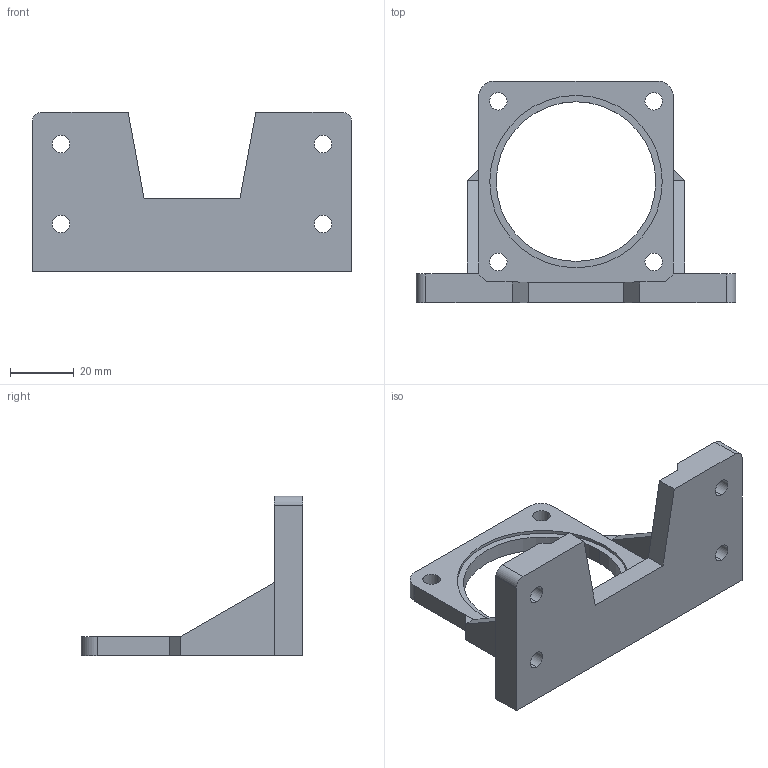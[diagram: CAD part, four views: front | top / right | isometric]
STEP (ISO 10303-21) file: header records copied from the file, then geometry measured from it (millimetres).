
FILE_DESCRIPTION (( 'STEP AP203' ), '1' );
FILE_NAME ('B2假蚾盓殤.STEP', '2018-12-10T06:09:48', ( 'china' ), ( 'china' ), 'SwSTEP 2.0', 'SolidWorks 2014', '' );
FILE_SCHEMA (( 'CONFIG_CONTROL_DESIGN' ));
Length unit declared in the file: millimetre
Products named in the file (1): B2假蚾盓殤
Bounding box: 100 x 69.5 x 50 mm (x, y, z)
Volume: 43995.3 mm3; surface area: 19429.4 mm2
Topology: 5 solids, 5 shells, 65 faces, 160 edges, 106 vertices
Faces by surface type: plane 41, cylinder 24
Entity records: 2031 total; most frequent: DIRECTION 340, CARTESIAN_POINT 332, ORIENTED_EDGE 320, EDGE_CURVE 160, AXIS2_PLACEMENT_3D 114, LINE 112, VECTOR 112, VERTEX_POINT 106
